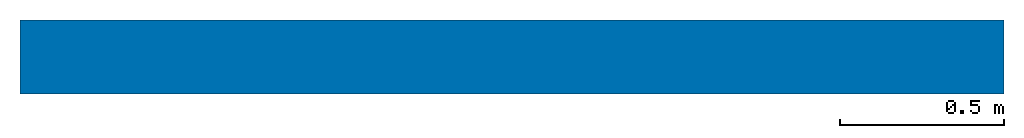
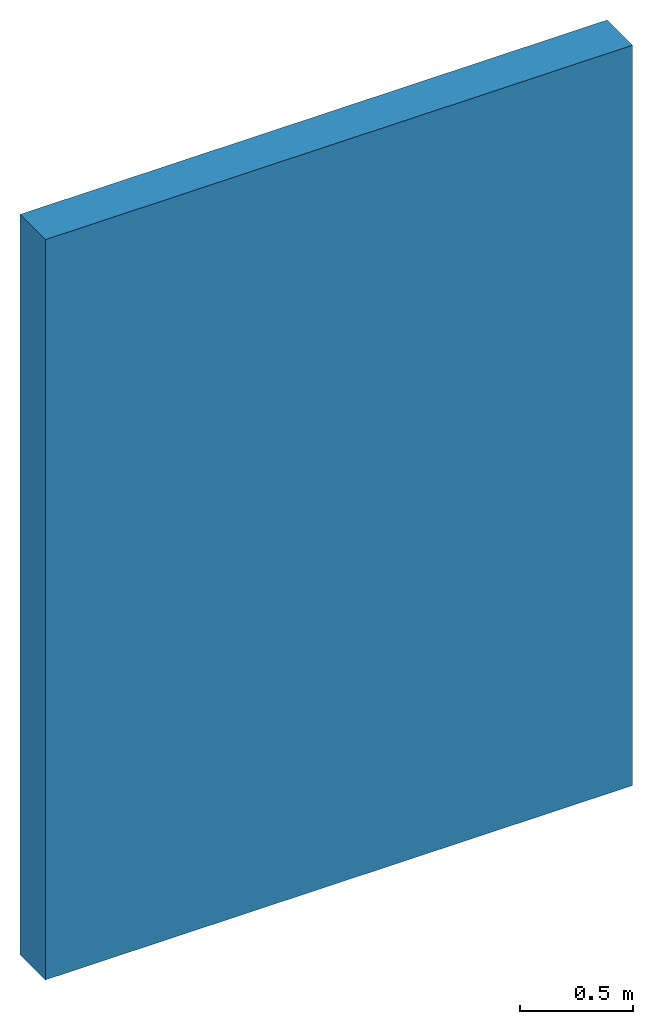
# One storey: 1 wall.
"""IFC2X3 building model written with IfcOpenShell, lengths in millimetres."""

from ifc_helpers import new_model, entity, si_unit, converted_unit, derived_unit, direction, frame, frame_2d, origin, place, context, subcontext, project, spatial, rectangle, extrude, material, layer, layer_set, layer_usage, type_object, element, save


model = new_model("IFC2X3")

# Units and contexts
model_context = context("Model", 3, precision=0.01, world=origin(), true_north=direction((6.12303176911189e-17, 1.0)))
body_context = subcontext(model_context, "Body", "Model", "MODEL_VIEW")
ifc_project = project(units=[si_unit("LENGTHUNIT", "METRE", prefix="MILLI"), si_unit("AREAUNIT", "SQUARE_METRE"), si_unit("VOLUMEUNIT", "CUBIC_METRE"), converted_unit("PLANEANGLEUNIT", "DEGREE", entity("IfcRatioMeasure", 0.0174532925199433), si_unit("PLANEANGLEUNIT", "RADIAN"), dimensions=[0, 0, 0, 0, 0, 0, 0]), si_unit("MASSUNIT", "GRAM", prefix="KILO"), si_unit("TIMEUNIT", "SECOND"), si_unit("FREQUENCYUNIT", "HERTZ"), si_unit("THERMODYNAMICTEMPERATUREUNIT", "DEGREE_CELSIUS"), derived_unit("THERMALTRANSMITTANCEUNIT", [(si_unit("MASSUNIT", "GRAM", prefix="KILO"), 1), (si_unit("THERMODYNAMICTEMPERATUREUNIT", "KELVIN"), -1), (si_unit("TIMEUNIT", "SECOND"), -3)]), derived_unit("VOLUMETRICFLOWRATEUNIT", [(si_unit("LENGTHUNIT", "METRE"), 3), (si_unit("TIMEUNIT", "SECOND"), -1)]), si_unit("ELECTRICCURRENTUNIT", "AMPERE"), si_unit("ELECTRICVOLTAGEUNIT", "VOLT"), si_unit("POWERUNIT", "WATT"), si_unit("FORCEUNIT", "NEWTON", prefix="KILO"), si_unit("ILLUMINANCEUNIT", "LUX"), si_unit("LUMINOUSFLUXUNIT", "LUMEN"), si_unit("LUMINOUSINTENSITYUNIT", "CANDELA"), derived_unit("USERDEFINED", [(si_unit("MASSUNIT", "GRAM", prefix="KILO"), -1), (si_unit("LENGTHUNIT", "METRE"), -2), (si_unit("TIMEUNIT", "SECOND"), 3), (si_unit("LUMINOUSFLUXUNIT", "LUMEN"), 1)]), derived_unit("LINEARVELOCITYUNIT", [(si_unit("LENGTHUNIT", "METRE"), 1), (si_unit("TIMEUNIT", "SECOND"), -1)]), si_unit("PRESSUREUNIT", "PASCAL"), derived_unit("USERDEFINED", [(si_unit("LENGTHUNIT", "METRE"), -2), (si_unit("MASSUNIT", "GRAM", prefix="KILO"), 1), (si_unit("TIMEUNIT", "SECOND"), -2)])], contexts=[model_context])

# Site, building, storey
site_placement = place(None, origin())
site = spatial("IfcSite", under=ifc_project, at=site_placement, Name="Default", CompositionType="ELEMENT")
building_placement = place(site_placement, origin())
building = spatial("IfcBuilding", under=site, at=building_placement, CompositionType="ELEMENT")
storey_placement = place(building_placement, origin())
storey = spatial("IfcBuildingStorey", under=building, at=storey_placement, Name="Уровень 1", CompositionType="ELEMENT", Elevation=0.0)

# Wall
ifc_material_1 = material(Name="КНАУФ-Сапфир")
ifc_layer_1 = layer(ifc_material_1, 12.5)
ifc_layer_2 = layer(ifc_material_1, 12.5)
ifc_material_2 = material(Name="КНАУФ-суперлист влагостойкий")
ifc_layer_3 = layer(ifc_material_2, 12.5)
ifc_layer_4 = layer(ifc_material_2, 12.5)
ifc_material_3 = material(Name="Luft")
ifc_layer_5 = layer(ifc_material_3, 25.0)
ifc_material_4 = material(Name="КНАУФ-профиль+мин.вата 75@600mm")
ifc_layer_6 = layer(ifc_material_4, 75.0)
ifc_layer_7 = layer(ifc_material_3, 25.0)
ifc_layer_8 = layer(ifc_material_2, 12.5)
ifc_layer_9 = layer(ifc_material_2, 12.5)
ifc_layer_10 = layer(ifc_material_1, 12.5)
ifc_layer_11 = layer(ifc_material_1, 12.5)
ifc_layer_set = layer_set([ifc_layer_1, ifc_layer_2, ifc_layer_3, ifc_layer_4, ifc_layer_5, ifc_layer_6, ifc_layer_7, ifc_layer_8, ifc_layer_9, ifc_layer_10, ifc_layer_11], Name="Базовая стена:Перегородка КНАУФ W145 Применение внутри здания MW100/50 ПН100х40 с двуслойной КНАУФ-Сапфир+ГВЛ")
ifc_layer_usage = layer_usage(ifc_layer_set, "AXIS2", "NEGATIVE", 112.5)
wall_type = type_object("IfcWallType", Name="Базовая стена:Перегородка КНАУФ W145 Применение внутри здания MW100/50 ПН100х40 с двуслойной КНАУФ-Сапфир+ГВЛ", PredefinedType="STANDARD", material=ifc_layer_set)
wall_placement = place(storey_placement, frame((-1134.6443789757, 723.678194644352, 0.0)))
element("IfcWallStandardCase", 1, at=wall_placement, inside=storey, type_object=wall_type, material=ifc_layer_usage, Name="Базовая стена:Перегородка КНАУФ W145 Применение внутри здания MW100/50 ПН100х40 с двуслойной КНАУФ-Сапфир+ГВЛ", ObjectType="Базовая стена:Перегородка КНАУФ W145 Применение внутри здания MW100/50 ПН100х40 с двуслойной КНАУФ-Сапфир+ГВЛ", context=body_context, shape_type="SweptSolid", body=[
    extrude(rectangle(XDim=3000.0, YDim=225.0, at=frame_2d((1500.0, 0.0), x_axis=(-1.0, 0.0))), origin(), (0.0, 0.0, 1.0), 4000.0),
])

save(model, "model.ifc")
